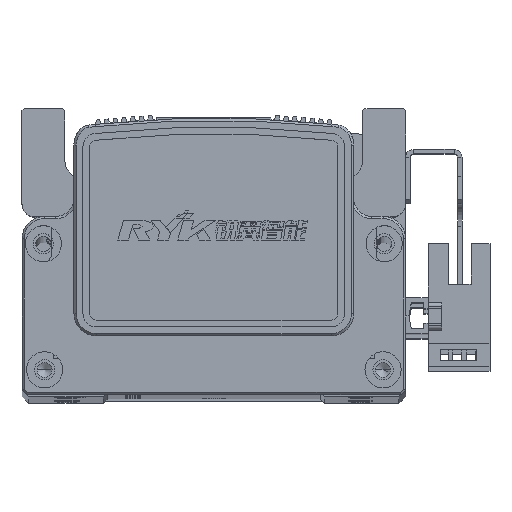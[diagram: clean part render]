
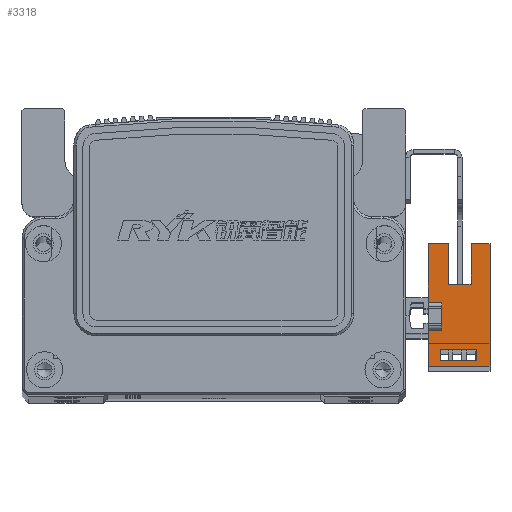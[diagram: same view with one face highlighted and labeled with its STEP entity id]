
A CAD part, top view. The second image highlights one B-rep face of the part: STEP entity #3318.
In plain terms, the highlighted planar face has unit normal (0, 0, 1) as drawn and (1, 0, 0) by its records, which use the part's own axes.
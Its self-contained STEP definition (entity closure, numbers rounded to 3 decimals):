
#3318 = ADVANCED_FACE ( 'NONE', ( #6097, #5995 ), #37688, .T. ) ;
#5995 = FACE_BOUND ( 'NONE', #33929, .T. ) ;
#6085 = EDGE_CURVE ( 'NONE', #40265, #40312, #35732, .T. ) ;
#6097 = FACE_OUTER_BOUND ( 'NONE', #20485, .T. ) ;
#6141 = EDGE_CURVE ( 'NONE', #40314, #40243, #49442, .T. ) ;
#6150 = EDGE_CURVE ( 'NONE', #40289, #40316, #49438, .T. ) ;
#6227 = EDGE_CURVE ( 'NONE', #40430, #40289, #49388, .T. ) ;
#6282 = EDGE_CURVE ( 'NONE', #40374, #40338, #49408, .T. ) ;
#6289 = EDGE_CURVE ( 'NONE', #40243, #40425, #20960, .T. ) ;
#6297 = EDGE_CURVE ( 'NONE', #40420, #40404, #20969, .T. ) ;
#6307 = EDGE_CURVE ( 'NONE', #40380, #40265, #20954, .T. ) ;
#6313 = EDGE_CURVE ( 'NONE', #40338, #40316, #21074, .T. ) ;
#6314 = EDGE_CURVE ( 'NONE', #40398, #40374, #21081, .T. ) ;
#6325 = EDGE_CURVE ( 'NONE', #40425, #40430, #21090, .T. ) ;
#6331 = EDGE_CURVE ( 'NONE', #40404, #40345, #20993, .T. ) ;
#6360 = EDGE_CURVE ( 'NONE', #40312, #40398, #21056, .T. ) ;
#6411 = EDGE_CURVE ( 'NONE', #40380, #40314, #30119, .T. ) ;
#6422 = EDGE_CURVE ( 'NONE', #40345, #40335, #30136, .T. ) ;
#6426 = EDGE_CURVE ( 'NONE', #40335, #40420, #30142, .T. ) ;
#12415 = ORIENTED_EDGE ( 'NONE', *, *, #6307, .T. ) ;
#12431 = ORIENTED_EDGE ( 'NONE', *, *, #6411, .F. ) ;
#12432 = ORIENTED_EDGE ( 'NONE', *, *, #6150, .F. ) ;
#12436 = ORIENTED_EDGE ( 'NONE', *, *, #6297, .F. ) ;
#12446 = ORIENTED_EDGE ( 'NONE', *, *, #6141, .F. ) ;
#12447 = ORIENTED_EDGE ( 'NONE', *, *, #6422, .F. ) ;
#12449 = ORIENTED_EDGE ( 'NONE', *, *, #6289, .F. ) ;
#12451 = ORIENTED_EDGE ( 'NONE', *, *, #6085, .T. ) ;
#12460 = ORIENTED_EDGE ( 'NONE', *, *, #6227, .F. ) ;
#12464 = ORIENTED_EDGE ( 'NONE', *, *, #6313, .T. ) ;
#12470 = ORIENTED_EDGE ( 'NONE', *, *, #6282, .T. ) ;
#12477 = ORIENTED_EDGE ( 'NONE', *, *, #6331, .F. ) ;
#12478 = ORIENTED_EDGE ( 'NONE', *, *, #6360, .T. ) ;
#12486 = ORIENTED_EDGE ( 'NONE', *, *, #6426, .F. ) ;
#12490 = ORIENTED_EDGE ( 'NONE', *, *, #6325, .F. ) ;
#12496 = ORIENTED_EDGE ( 'NONE', *, *, #6314, .T. ) ;
#20485 = EDGE_LOOP ( 'NONE', ( #12478, #12496, #12470, #12464, #12432, #12460, #12490, #12449, #12446, #12431, #12415, #12451 ) ) ;
#20916 = VECTOR ( 'NONE', #32599, 1000. ) ;
#20954 = LINE ( 'NONE', #32617, #20966 ) ;
#20960 = LINE ( 'NONE', #32560, #20985 ) ;
#20966 = VECTOR ( 'NONE', #32615, 1000. ) ;
#20969 = LINE ( 'NONE', #32578, #20916 ) ;
#20985 = VECTOR ( 'NONE', #32562, 1000. ) ;
#20993 = LINE ( 'NONE', #32643, #21040 ) ;
#20997 = VECTOR ( 'NONE', #32614, 1000. ) ;
#21040 = VECTOR ( 'NONE', #32642, 1000. ) ;
#21056 = LINE ( 'NONE', #32652, #21117 ) ;
#21074 = LINE ( 'NONE', #32612, #21079 ) ;
#21079 = VECTOR ( 'NONE', #32594, 1000. ) ;
#21081 = LINE ( 'NONE', #32586, #20997 ) ;
#21087 = VECTOR ( 'NONE', #32587, 1000. ) ;
#21090 = LINE ( 'NONE', #32582, #21087 ) ;
#21117 = VECTOR ( 'NONE', #32653, 1000. ) ;
#26756 = AXIS2_PLACEMENT_3D ( 'NONE', #37650, #37693, #37697 ) ;
#30119 = LINE ( 'NONE', #32733, #30130 ) ;
#30130 = VECTOR ( 'NONE', #32741, 1000. ) ;
#30136 = LINE ( 'NONE', #32825, #30140 ) ;
#30139 = VECTOR ( 'NONE', #32787, 1000. ) ;
#30140 = VECTOR ( 'NONE', #32783, 1000. ) ;
#30142 = LINE ( 'NONE', #32796, #30139 ) ;
#32224 = CARTESIAN_POINT ( 'NONE',  ( 3.2, 16.1, -10.7 ) ) ;
#32238 = DIRECTION ( 'NONE',  ( 0., 0., 1. ) ) ;
#32257 = DIRECTION ( 'NONE',  ( 0., 1., 0. ) ) ;
#32262 = CARTESIAN_POINT ( 'NONE',  ( 3.2, 16.1, 3. ) ) ;
#32269 = CARTESIAN_POINT ( 'NONE',  ( 3.2, 16.1, 3. ) ) ;
#32279 = DIRECTION ( 'NONE',  ( 0., 1., 0. ) ) ;
#32371 = CARTESIAN_POINT ( 'NONE',  ( 3.2, 3.1, 3. ) ) ;
#32480 = DIRECTION ( 'NONE',  ( 0., 0., 1. ) ) ;
#32534 = DIRECTION ( 'NONE',  ( 0., 1., 0. ) ) ;
#32538 = CARTESIAN_POINT ( 'NONE',  ( 3.2, 25.1, -1.5 ) ) ;
#32560 = CARTESIAN_POINT ( 'NONE',  ( 3.2, -3.1, 3. ) ) ;
#32562 = DIRECTION ( 'NONE',  ( 0., 0., -1. ) ) ;
#32578 = CARTESIAN_POINT ( 'NONE',  ( 3.2, 16.1, -7.7 ) ) ;
#32582 = CARTESIAN_POINT ( 'NONE',  ( 3.2, 0., 0. ) ) ;
#32586 = CARTESIAN_POINT ( 'NONE',  ( 3.2, 7.1, -6.5 ) ) ;
#32587 = DIRECTION ( 'NONE',  ( 0., 1., 0. ) ) ;
#32594 = DIRECTION ( 'NONE',  ( 0., 0., 1. ) ) ;
#32599 = DIRECTION ( 'NONE',  ( 0., 1., 0. ) ) ;
#32612 = CARTESIAN_POINT ( 'NONE',  ( 3.2, 16.1, -10.7 ) ) ;
#32614 = DIRECTION ( 'NONE',  ( 0., 0., 1. ) ) ;
#32615 = DIRECTION ( 'NONE',  ( 0., 1., 0. ) ) ;
#32617 = CARTESIAN_POINT ( 'NONE',  ( 3.2, 16.1, -10.7 ) ) ;
#32642 = DIRECTION ( 'NONE',  ( 0., 0., 1. ) ) ;
#32643 = CARTESIAN_POINT ( 'NONE',  ( 3.2, -7.33, -10.7 ) ) ;
#32652 = CARTESIAN_POINT ( 'NONE',  ( 3.2, 25.1, -6.5 ) ) ;
#32653 = DIRECTION ( 'NONE',  ( 0., -1., 0. ) ) ;
#32733 = CARTESIAN_POINT ( 'NONE',  ( 3.2, -11.1, 3. ) ) ;
#32741 = DIRECTION ( 'NONE',  ( 0., 0., 1. ) ) ;
#32783 = DIRECTION ( 'NONE',  ( 0., -1., 0. ) ) ;
#32787 = DIRECTION ( 'NONE',  ( 0., 0., -1. ) ) ;
#32796 = CARTESIAN_POINT ( 'NONE',  ( 3.2, -9.83, -10.7 ) ) ;
#32825 = CARTESIAN_POINT ( 'NONE',  ( 3.2, 16.1, 0.3 ) ) ;
#33929 = EDGE_LOOP ( 'NONE', ( #12447, #12477, #12436, #12486 ) ) ;
#35732 = LINE ( 'NONE', #32224, #35737 ) ;
#35737 = VECTOR ( 'NONE', #32238, 1000. ) ;
#37650 = CARTESIAN_POINT ( 'NONE',  ( 3.2, 16.1, -10.7 ) ) ;
#37688 = PLANE ( 'NONE',  #26756 ) ;
#37693 = DIRECTION ( 'NONE',  ( 1., 0., 0. ) ) ;
#37697 = DIRECTION ( 'NONE',  ( 0., 1., 0. ) ) ;
#40243 = VERTEX_POINT ( 'NONE', #50023 ) ;
#40265 = VERTEX_POINT ( 'NONE', #50099 ) ;
#40289 = VERTEX_POINT ( 'NONE', #50127 ) ;
#40312 = VERTEX_POINT ( 'NONE', #50131 ) ;
#40314 = VERTEX_POINT ( 'NONE', #50111 ) ;
#40316 = VERTEX_POINT ( 'NONE', #50112 ) ;
#40335 = VERTEX_POINT ( 'NONE', #50136 ) ;
#40338 = VERTEX_POINT ( 'NONE', #50137 ) ;
#40345 = VERTEX_POINT ( 'NONE', #50141 ) ;
#40374 = VERTEX_POINT ( 'NONE', #50198 ) ;
#40380 = VERTEX_POINT ( 'NONE', #50200 ) ;
#40398 = VERTEX_POINT ( 'NONE', #50187 ) ;
#40404 = VERTEX_POINT ( 'NONE', #50201 ) ;
#40420 = VERTEX_POINT ( 'NONE', #50152 ) ;
#40425 = VERTEX_POINT ( 'NONE', #50145 ) ;
#40430 = VERTEX_POINT ( 'NONE', #50167 ) ;
#49388 = LINE ( 'NONE', #32371, #49398 ) ;
#49398 = VECTOR ( 'NONE', #32480, 1000. ) ;
#49408 = LINE ( 'NONE', #32538, #49409 ) ;
#49409 = VECTOR ( 'NONE', #32534, 1000. ) ;
#49425 = VECTOR ( 'NONE', #32257, 1000. ) ;
#49438 = LINE ( 'NONE', #32269, #49440 ) ;
#49440 = VECTOR ( 'NONE', #32279, 1000. ) ;
#49442 = LINE ( 'NONE', #32262, #49425 ) ;
#50023 = CARTESIAN_POINT ( 'NONE',  ( 3.2, -3.1, 3. ) ) ;
#50099 = CARTESIAN_POINT ( 'NONE',  ( 3.2, 16.1, -10.7 ) ) ;
#50111 = CARTESIAN_POINT ( 'NONE',  ( 3.2, -11.1, 3. ) ) ;
#50112 = CARTESIAN_POINT ( 'NONE',  ( 3.2, 16.1, 3. ) ) ;
#50127 = CARTESIAN_POINT ( 'NONE',  ( 3.2, 3.1, 3. ) ) ;
#50131 = CARTESIAN_POINT ( 'NONE',  ( 3.2, 16.1, -6.5 ) ) ;
#50136 = CARTESIAN_POINT ( 'NONE',  ( 3.2, -9.83, 0.3 ) ) ;
#50137 = CARTESIAN_POINT ( 'NONE',  ( 3.2, 16.1, -1.5 ) ) ;
#50141 = CARTESIAN_POINT ( 'NONE',  ( 3.2, -7.33, 0.3 ) ) ;
#50145 = CARTESIAN_POINT ( 'NONE',  ( 3.2, -3.1, 0. ) ) ;
#50152 = CARTESIAN_POINT ( 'NONE',  ( 3.2, -9.83, -7.7 ) ) ;
#50167 = CARTESIAN_POINT ( 'NONE',  ( 3.2, 3.1, 0. ) ) ;
#50187 = CARTESIAN_POINT ( 'NONE',  ( 3.2, 7.1, -6.5 ) ) ;
#50198 = CARTESIAN_POINT ( 'NONE',  ( 3.2, 7.1, -1.5 ) ) ;
#50200 = CARTESIAN_POINT ( 'NONE',  ( 3.2, -11.1, -10.7 ) ) ;
#50201 = CARTESIAN_POINT ( 'NONE',  ( 3.2, -7.33, -7.7 ) ) ;
